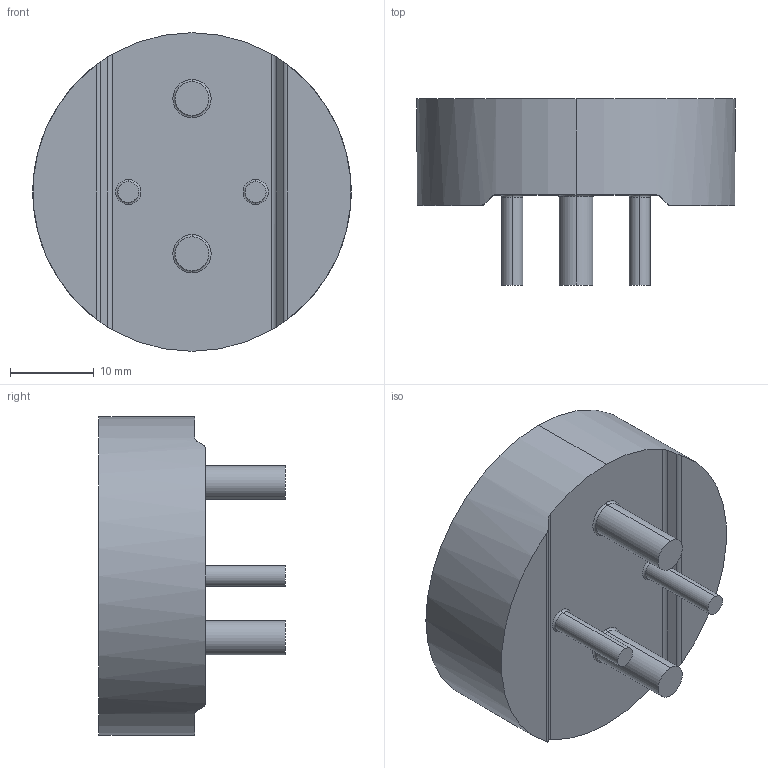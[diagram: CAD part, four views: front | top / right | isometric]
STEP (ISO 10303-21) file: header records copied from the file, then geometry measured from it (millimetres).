
FILE_DESCRIPTION (( 'STEP AP214' ), '1' );
FILE_NAME ('IHTH-1500MZ-5A 2.7uH.STEP', '2025-03-14T19:42:50', ( '' ), ( '' ), 'SwSTEP 2.0', 'SolidWorks 2024', '' );
FILE_SCHEMA (( 'AUTOMOTIVE_DESIGN' ));
Length unit declared in the file: inch
Products named in the file (1): IHTH-1500MZ-5A 2.7uH
Bounding box: 38.1 x 22.28 x 38.1 mm (x, y, z)
Volume: 13962.6 mm3; surface area: 4221.5 mm2
Topology: 1 solids, 1 shells, 207 faces, 532 edges, 352 vertices
Faces by surface type: plane 134, bspline 47, cylinder 18, torus 8
Entity records: 9079 total; most frequent: CARTESIAN_POINT 4311, ORIENTED_EDGE 1064, DIRECTION 796, EDGE_CURVE 532, VECTOR 378, LINE 378, VERTEX_POINT 352, EDGE_LOOP 232
